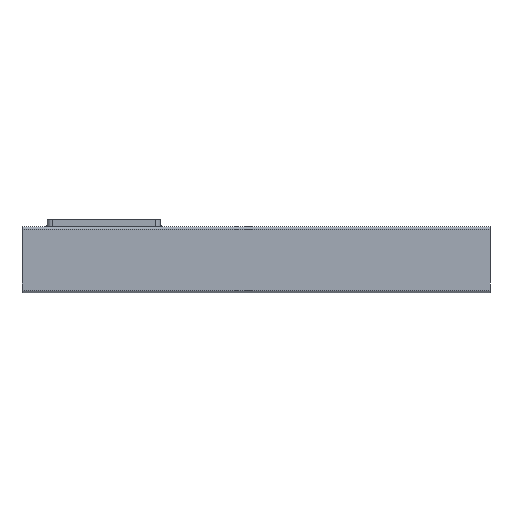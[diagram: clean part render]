
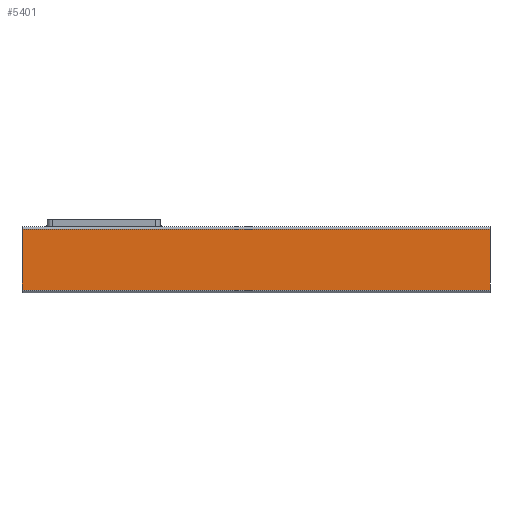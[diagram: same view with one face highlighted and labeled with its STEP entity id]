
A CAD part, left-side view. The second image highlights one B-rep face of the part: STEP entity #5401.
In plain terms, the highlighted planar face has unit normal (-1, 0, 0).
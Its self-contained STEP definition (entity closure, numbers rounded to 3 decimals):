
#872=DIRECTION('',(0.,0.,-1.));
#873=VECTOR('',#872,64.5);
#874=CARTESIAN_POINT('',(-35.,498.,32.25));
#875=LINE('',#874,#873);
#1096=DIRECTION('',(0.,0.,-1.));
#1097=VECTOR('',#1096,64.5);
#1098=CARTESIAN_POINT('',(-35.,0.,32.25));
#1099=LINE('',#1098,#1097);
#1473=DIRECTION('',(0.,1.,0.));
#1474=VECTOR('',#1473,498.);
#1475=CARTESIAN_POINT('',(-35.,0.,-32.25));
#1476=LINE('',#1475,#1474);
#1477=DIRECTION('',(0.,1.,0.));
#1478=VECTOR('',#1477,498.);
#1479=CARTESIAN_POINT('',(-35.,0.,32.25));
#1480=LINE('',#1479,#1478);
#3294=CARTESIAN_POINT('',(-35.,0.,32.25));
#3296=VERTEX_POINT('',#3294);
#3297=CARTESIAN_POINT('',(-35.,0.,-32.25));
#3298=VERTEX_POINT('',#3297);
#3726=CARTESIAN_POINT('',(-35.,498.,32.25));
#3728=VERTEX_POINT('',#3726);
#3729=CARTESIAN_POINT('',(-35.,498.,-32.25));
#3731=VERTEX_POINT('',#3729);
#5389=CARTESIAN_POINT('',(-35.,0.,32.25));
#5390=DIRECTION('',(-1.,0.,0.));
#5391=DIRECTION('',(0.,0.,-1.));
#5392=AXIS2_PLACEMENT_3D('',#5389,#5390,#5391);
#5393=PLANE('',#5392);
#5394=ORIENTED_EDGE('',*,*,#4816,.T.);
#5395=ORIENTED_EDGE('',*,*,#5384,.T.);
#5396=ORIENTED_EDGE('',*,*,#4702,.F.);
#5398=ORIENTED_EDGE('',*,*,#5397,.F.);
#5399=EDGE_LOOP('',(#5394,#5395,#5396,#5398));
#5400=FACE_OUTER_BOUND('',#5399,.F.);
#4702=EDGE_CURVE('',#3728,#3731,#875,.T.);
#4816=EDGE_CURVE('',#3296,#3298,#1099,.T.);
#5384=EDGE_CURVE('',#3298,#3731,#1476,.T.);
#5397=EDGE_CURVE('',#3296,#3728,#1480,.T.);
#5401=ADVANCED_FACE('',(#5400),#5393,.T.);
